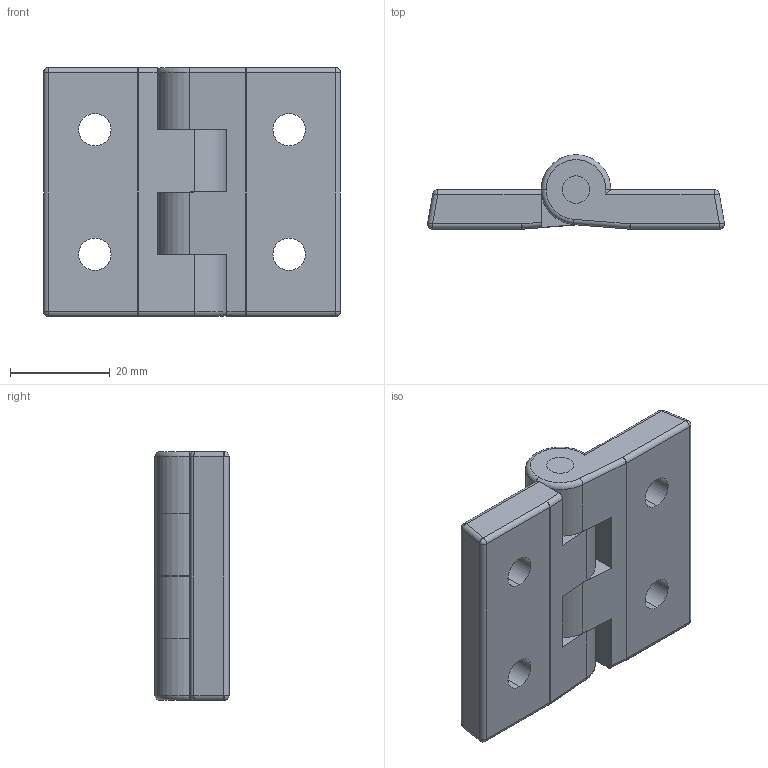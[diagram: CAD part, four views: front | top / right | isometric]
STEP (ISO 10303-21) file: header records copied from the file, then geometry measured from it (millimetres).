
FILE_DESCRIPTION (( 'STEP AP203' ), '1' );
FILE_NAME ('340MN08.STEP', '2018-07-03T14:02:15', ( '' ), ( '' ), 'SwSTEP 2.0', 'SolidWorks 2014', '' );
FILE_SCHEMA (( 'CONFIG_CONTROL_DESIGN' ));
Length unit declared in the file: millimetre
Products named in the file (3): P嵱; 340MN08; 40''LIK MENTEÞE KANAT
Assembly tree (3 placements, depth 2):
  340MN08
    40''LIK MENTEÞE KANAT  x2
    P嵱
Bounding box: 59.61 x 14.89 x 50 mm (x, y, z)
Volume: 24209.4 mm3; surface area: 11322.1 mm2
Topology: 3 solids, 3 shells, 102 faces, 238 edges, 130 vertices
Faces by surface type: cylinder 48, plane 24, sphere 16, cone 8, torus 6
Entity records: 1801 total; most frequent: DIRECTION 293, CARTESIAN_POINT 252, ORIENTED_EDGE 232, AXIS2_PLACEMENT_3D 120, EDGE_CURVE 116, VERTEX_POINT 67, EDGE_LOOP 61, CIRCLE 61
